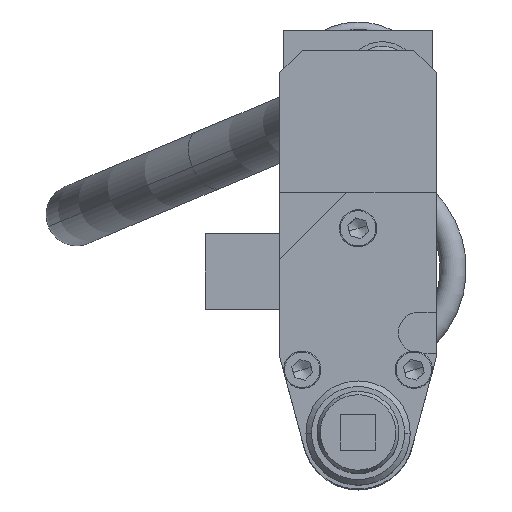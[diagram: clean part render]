
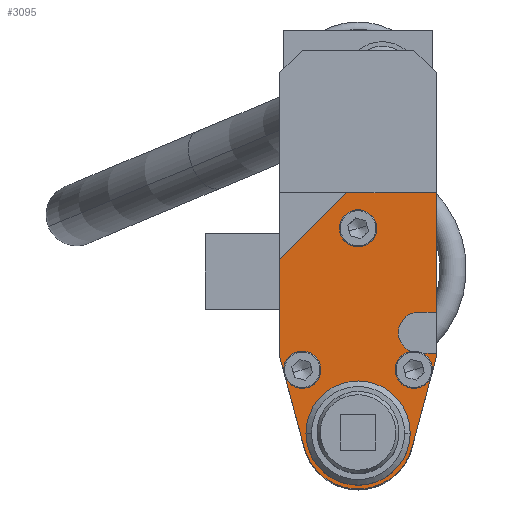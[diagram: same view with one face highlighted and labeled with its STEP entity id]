
A CAD part, top view. The second image highlights one B-rep face of the part: STEP entity #3095.
In plain terms, the highlighted planar face has unit normal (0, 0, 1).
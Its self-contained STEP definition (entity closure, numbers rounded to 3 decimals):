
#2904=CARTESIAN_POINT('Axis2P3D Location',(-15.,-26.54,447.1)) ;
#2908=CARTESIAN_POINT('Vertex',(-11.965,-28.198,447.1)) ;
#2910=CARTESIAN_POINT('Vertex',(-18.035,-24.882,447.1)) ;
#2930=CARTESIAN_POINT('Axis2P3D Location',(-15.,-26.54,447.1)) ;
#2942=CARTESIAN_POINT('Axis2P3D Location',(0.,-43.54,447.1)) ;
#2947=CARTESIAN_POINT('Line Origine',(18.65,-22.04,447.1)) ;
#2951=CARTESIAN_POINT('Vertex',(16.3,-22.04,447.1)) ;
#2953=CARTESIAN_POINT('Vertex',(21.,-22.04,447.1)) ;
#2956=CARTESIAN_POINT('Axis2P3D Location',(16.3,-16.54,447.1)) ;
#2960=CARTESIAN_POINT('Vertex',(16.3,-11.04,447.1)) ;
#2963=CARTESIAN_POINT('Line Origine',(18.65,-11.04,447.1)) ;
#2967=CARTESIAN_POINT('Vertex',(21.,-11.04,447.1)) ;
#2970=CARTESIAN_POINT('Line Origine',(21.,5.01,447.1)) ;
#2974=CARTESIAN_POINT('Vertex',(21.,21.06,447.1)) ;
#2977=CARTESIAN_POINT('Line Origine',(9.,21.06,447.1)) ;
#2981=CARTESIAN_POINT('Vertex',(-3.,21.06,447.1)) ;
#2984=CARTESIAN_POINT('Line Origine',(-12.,12.06,447.1)) ;
#2988=CARTESIAN_POINT('Vertex',(-21.,3.06,447.1)) ;
#2991=CARTESIAN_POINT('Line Origine',(-21.,-10.031,447.1)) ;
#2995=CARTESIAN_POINT('Vertex',(-21.,-23.122,447.1)) ;
#2998=CARTESIAN_POINT('Line Origine',(-17.744,-35.272,447.1)) ;
#3002=CARTESIAN_POINT('Vertex',(-14.489,-47.422,447.1)) ;
#3005=CARTESIAN_POINT('Axis2P3D Location',(0.,-43.54,447.1)) ;
#3009=CARTESIAN_POINT('Vertex',(14.489,-47.422,447.1)) ;
#3012=CARTESIAN_POINT('Line Origine',(17.744,-35.272,447.1)) ;
#3016=CARTESIAN_POINT('Vertex',(21.,-23.122,447.1)) ;
#3019=CARTESIAN_POINT('Line Origine',(21.,-22.581,447.1)) ;
#3041=CARTESIAN_POINT('Axis2P3D Location',(15.,-26.54,447.1)) ;
#3045=CARTESIAN_POINT('Vertex',(11.965,-24.882,447.1)) ;
#3047=CARTESIAN_POINT('Vertex',(18.035,-28.198,447.1)) ;
#3050=CARTESIAN_POINT('Axis2P3D Location',(15.,-26.54,447.1)) ;
#3059=CARTESIAN_POINT('Axis2P3D Location',(0.,11.46,447.1)) ;
#3063=CARTESIAN_POINT('Vertex',(-3.035,13.118,447.1)) ;
#3065=CARTESIAN_POINT('Vertex',(3.035,9.802,447.1)) ;
#3068=CARTESIAN_POINT('Axis2P3D Location',(0.,11.46,447.1)) ;
#3077=CARTESIAN_POINT('Axis2P3D Location',(0.,-43.54,447.1)) ;
#3081=CARTESIAN_POINT('Vertex',(14.,-43.54,447.1)) ;
#3083=CARTESIAN_POINT('Vertex',(-14.,-43.54,447.1)) ;
#3086=CARTESIAN_POINT('Axis2P3D Location',(0.,-43.54,447.1)) ;
#2905=DIRECTION('Axis2P3D Direction',(0.,0.,1.)) ;
#2931=DIRECTION('Axis2P3D Direction',(0.,0.,1.)) ;
#2943=DIRECTION('Axis2P3D Direction',(0.,0.,1.)) ;
#2944=DIRECTION('Axis2P3D XDirection',(1.,0.,0.)) ;
#2948=DIRECTION('Vector Direction',(1.,0.,0.)) ;
#2957=DIRECTION('Axis2P3D Direction',(0.,0.,1.)) ;
#2964=DIRECTION('Vector Direction',(-1.,0.,0.)) ;
#2971=DIRECTION('Vector Direction',(0.,-1.,0.)) ;
#2978=DIRECTION('Vector Direction',(1.,0.,0.)) ;
#2985=DIRECTION('Vector Direction',(-0.707,-0.707,0.)) ;
#2992=DIRECTION('Vector Direction',(0.,1.,0.)) ;
#2999=DIRECTION('Vector Direction',(-0.259,0.966,0.)) ;
#3006=DIRECTION('Axis2P3D Direction',(0.,0.,1.)) ;
#3013=DIRECTION('Vector Direction',(-0.259,-0.966,0.)) ;
#3020=DIRECTION('Vector Direction',(0.,-1.,0.)) ;
#3042=DIRECTION('Axis2P3D Direction',(0.,0.,1.)) ;
#3051=DIRECTION('Axis2P3D Direction',(0.,0.,1.)) ;
#3060=DIRECTION('Axis2P3D Direction',(0.,0.,1.)) ;
#3069=DIRECTION('Axis2P3D Direction',(0.,0.,1.)) ;
#3078=DIRECTION('Axis2P3D Direction',(0.,0.,1.)) ;
#3087=DIRECTION('Axis2P3D Direction',(0.,0.,1.)) ;
#2906=AXIS2_PLACEMENT_3D('Circle Axis2P3D',#2904,#2905,$) ;
#2932=AXIS2_PLACEMENT_3D('Circle Axis2P3D',#2930,#2931,$) ;
#2945=AXIS2_PLACEMENT_3D('Plane Axis2P3D',#2942,#2943,#2944) ;
#2958=AXIS2_PLACEMENT_3D('Circle Axis2P3D',#2956,#2957,$) ;
#3007=AXIS2_PLACEMENT_3D('Circle Axis2P3D',#3005,#3006,$) ;
#3043=AXIS2_PLACEMENT_3D('Circle Axis2P3D',#3041,#3042,$) ;
#3052=AXIS2_PLACEMENT_3D('Circle Axis2P3D',#3050,#3051,$) ;
#3061=AXIS2_PLACEMENT_3D('Circle Axis2P3D',#3059,#3060,$) ;
#3070=AXIS2_PLACEMENT_3D('Circle Axis2P3D',#3068,#3069,$) ;
#3079=AXIS2_PLACEMENT_3D('Circle Axis2P3D',#3077,#3078,$) ;
#3088=AXIS2_PLACEMENT_3D('Circle Axis2P3D',#3086,#3087,$) ;
#3025=ORIENTED_EDGE('',*,*,#2955,.F.) ;
#3026=ORIENTED_EDGE('',*,*,#2962,.F.) ;
#3027=ORIENTED_EDGE('',*,*,#2969,.F.) ;
#3028=ORIENTED_EDGE('',*,*,#2976,.F.) ;
#3029=ORIENTED_EDGE('',*,*,#2983,.F.) ;
#3030=ORIENTED_EDGE('',*,*,#2990,.T.) ;
#3031=ORIENTED_EDGE('',*,*,#2997,.F.) ;
#3032=ORIENTED_EDGE('',*,*,#3004,.F.) ;
#3033=ORIENTED_EDGE('',*,*,#3011,.F.) ;
#3034=ORIENTED_EDGE('',*,*,#3018,.F.) ;
#3035=ORIENTED_EDGE('',*,*,#3023,.F.) ;
#3038=ORIENTED_EDGE('',*,*,#2934,.F.) ;
#3039=ORIENTED_EDGE('',*,*,#2912,.F.) ;
#3056=ORIENTED_EDGE('',*,*,#3049,.F.) ;
#3057=ORIENTED_EDGE('',*,*,#3054,.F.) ;
#3074=ORIENTED_EDGE('',*,*,#3067,.F.) ;
#3075=ORIENTED_EDGE('',*,*,#3072,.F.) ;
#3092=ORIENTED_EDGE('',*,*,#3085,.F.) ;
#3093=ORIENTED_EDGE('',*,*,#3090,.F.) ;
#3040=FACE_BOUND('',#3037,.T.) ;
#3058=FACE_BOUND('',#3055,.T.) ;
#3076=FACE_BOUND('',#3073,.T.) ;
#3094=FACE_BOUND('',#3091,.T.) ;
#2949=VECTOR('Line Direction',#2948,1.) ;
#2965=VECTOR('Line Direction',#2964,1.) ;
#2972=VECTOR('Line Direction',#2971,1.) ;
#2979=VECTOR('Line Direction',#2978,1.) ;
#2986=VECTOR('Line Direction',#2985,1.) ;
#2993=VECTOR('Line Direction',#2992,1.) ;
#3000=VECTOR('Line Direction',#2999,1.) ;
#3014=VECTOR('Line Direction',#3013,1.) ;
#3021=VECTOR('Line Direction',#3020,1.) ;
#3095=ADVANCED_FACE('',(#3036,#3040,#3058,#3076,#3094),#2946,.T.) ;
#2907=CIRCLE('generated circle',#2906,3.459) ;
#2933=CIRCLE('generated circle',#2932,3.459) ;
#2959=CIRCLE('generated circle',#2958,5.5) ;
#3008=CIRCLE('generated circle',#3007,15.) ;
#3044=CIRCLE('generated circle',#3043,3.459) ;
#3053=CIRCLE('generated circle',#3052,3.459) ;
#3062=CIRCLE('generated circle',#3061,3.459) ;
#3071=CIRCLE('generated circle',#3070,3.459) ;
#3080=CIRCLE('generated circle',#3079,14.) ;
#3089=CIRCLE('generated circle',#3088,14.) ;
#2912=EDGE_CURVE('',#2909,#2911,#2907,.T.) ;
#2934=EDGE_CURVE('',#2911,#2909,#2933,.T.) ;
#2955=EDGE_CURVE('',#2952,#2954,#2950,.T.) ;
#2962=EDGE_CURVE('',#2961,#2952,#2959,.T.) ;
#2969=EDGE_CURVE('',#2968,#2961,#2966,.T.) ;
#2976=EDGE_CURVE('',#2975,#2968,#2973,.T.) ;
#2983=EDGE_CURVE('',#2982,#2975,#2980,.T.) ;
#2990=EDGE_CURVE('',#2982,#2989,#2987,.T.) ;
#2997=EDGE_CURVE('',#2996,#2989,#2994,.T.) ;
#3004=EDGE_CURVE('',#3003,#2996,#3001,.T.) ;
#3011=EDGE_CURVE('',#3010,#3003,#3008,.F.) ;
#3018=EDGE_CURVE('',#3017,#3010,#3015,.T.) ;
#3023=EDGE_CURVE('',#2954,#3017,#3022,.T.) ;
#3049=EDGE_CURVE('',#3046,#3048,#3044,.T.) ;
#3054=EDGE_CURVE('',#3048,#3046,#3053,.T.) ;
#3067=EDGE_CURVE('',#3064,#3066,#3062,.T.) ;
#3072=EDGE_CURVE('',#3066,#3064,#3071,.T.) ;
#3085=EDGE_CURVE('',#3082,#3084,#3080,.T.) ;
#3090=EDGE_CURVE('',#3084,#3082,#3089,.T.) ;
#3024=EDGE_LOOP('',(#3025,#3026,#3027,#3028,#3029,#3030,#3031,#3032,#3033,#3034,#3035)) ;
#3037=EDGE_LOOP('',(#3038,#3039)) ;
#3055=EDGE_LOOP('',(#3056,#3057)) ;
#3073=EDGE_LOOP('',(#3074,#3075)) ;
#3091=EDGE_LOOP('',(#3092,#3093)) ;
#3036=FACE_OUTER_BOUND('',#3024,.T.) ;
#2950=LINE('Line',#2947,#2949) ;
#2966=LINE('Line',#2963,#2965) ;
#2973=LINE('Line',#2970,#2972) ;
#2980=LINE('Line',#2977,#2979) ;
#2987=LINE('Line',#2984,#2986) ;
#2994=LINE('Line',#2991,#2993) ;
#3001=LINE('Line',#2998,#3000) ;
#3015=LINE('Line',#3012,#3014) ;
#3022=LINE('Line',#3019,#3021) ;
#2946=PLANE('Plane',#2945) ;
#2909=VERTEX_POINT('',#2908) ;
#2911=VERTEX_POINT('',#2910) ;
#2952=VERTEX_POINT('',#2951) ;
#2954=VERTEX_POINT('',#2953) ;
#2961=VERTEX_POINT('',#2960) ;
#2968=VERTEX_POINT('',#2967) ;
#2975=VERTEX_POINT('',#2974) ;
#2982=VERTEX_POINT('',#2981) ;
#2989=VERTEX_POINT('',#2988) ;
#2996=VERTEX_POINT('',#2995) ;
#3003=VERTEX_POINT('',#3002) ;
#3010=VERTEX_POINT('',#3009) ;
#3017=VERTEX_POINT('',#3016) ;
#3046=VERTEX_POINT('',#3045) ;
#3048=VERTEX_POINT('',#3047) ;
#3064=VERTEX_POINT('',#3063) ;
#3066=VERTEX_POINT('',#3065) ;
#3082=VERTEX_POINT('',#3081) ;
#3084=VERTEX_POINT('',#3083) ;
